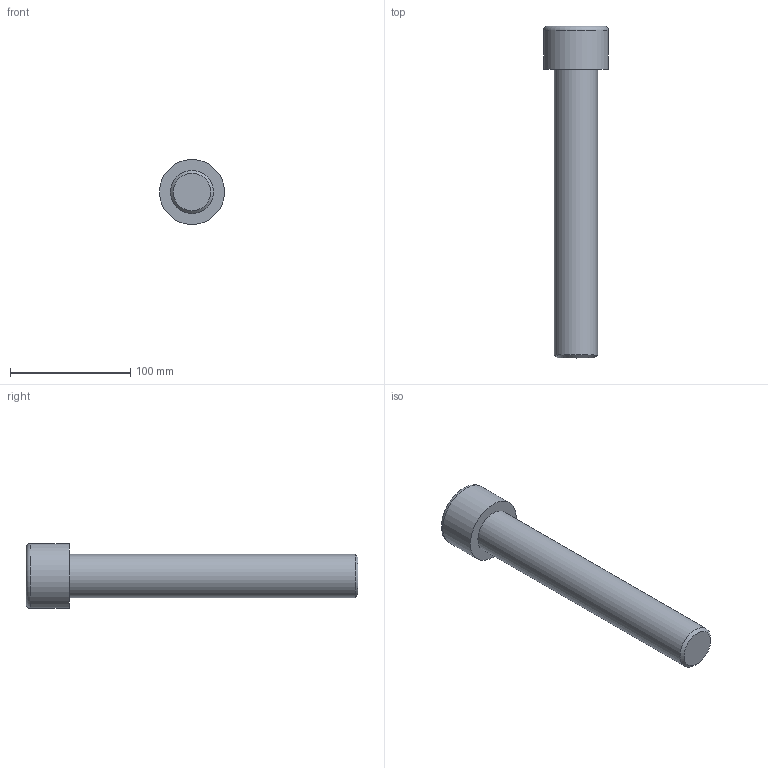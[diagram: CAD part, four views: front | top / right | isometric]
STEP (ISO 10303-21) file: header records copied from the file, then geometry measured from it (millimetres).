
FILE_DESCRIPTION(/* description */ (''),/* implementation_level */ '2;1');
FILE_NAME(/* name */ 'C:\Users\D\Documents\Inventor\各種小物\JIS\JIS B 1176 六角穴付きボルト\M36x240.stp',/* time_stamp */ '2022-05-09T19:03:55+09:00',/* author */ ('D'),/* organization */ (''),/* preprocessor_version */ 'ST-DEVELOPER v18',/* originating_system */ 'Autodesk Inventor 2020',/* authorisation */ '');
FILE_SCHEMA (('AUTOMOTIVE_DESIGN { 1 0 10303 214 3 1 1 }'));
Length unit declared in the file: millimetre
Products named in the file (1): M1.6x2.5
Bounding box: 54 x 276 x 54 mm (x, y, z)
Volume: 311733.7 mm3; surface area: 39341.9 mm2
Topology: 1 solids, 1 shells, 14 faces, 33 edges, 22 vertices
Faces by surface type: plane 9, cone 2, cylinder 2, torus 1
Full cylindrical faces by diameter (mm): 36 x1, 54 x1
Entity records: 435 total; most frequent: CARTESIAN_POINT 83, ORIENTED_EDGE 64, DIRECTION 64, EDGE_CURVE 32, AXIS2_PLACEMENT_3D 24, VERTEX_POINT 22, EDGE_LOOP 16, LINE 16
